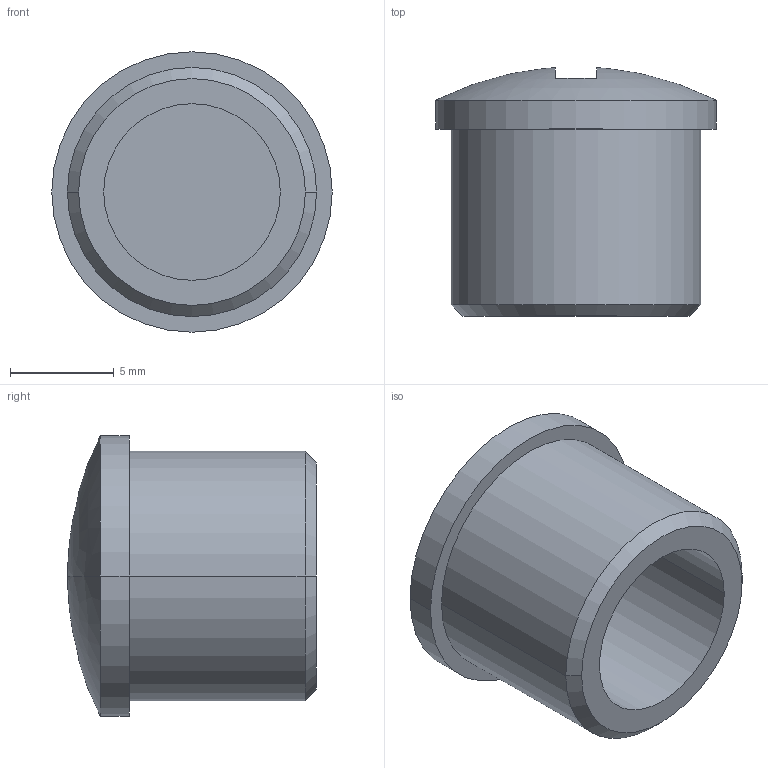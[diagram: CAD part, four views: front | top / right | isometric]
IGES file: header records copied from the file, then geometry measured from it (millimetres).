
Start section:  PTC IGES file: 8941350294.igs
Global section: file name: 8941350294.igs; native system: Creo Elements/Pro by Parametric Technology Corporation; preprocessor: 2012421; author: vol1hc; organization: Unknown; date: 20150623.145428; units: millimetre
Bounding box: 13.5 x 11.97 x 13.5 mm (x, y, z)
Surface area: 935 mm2 (no closed solid volume)
Topology: 0 solids, 0 shells, 18 faces, 76 edges, 76 vertices
Faces by surface type: revolution 10, bspline 8
